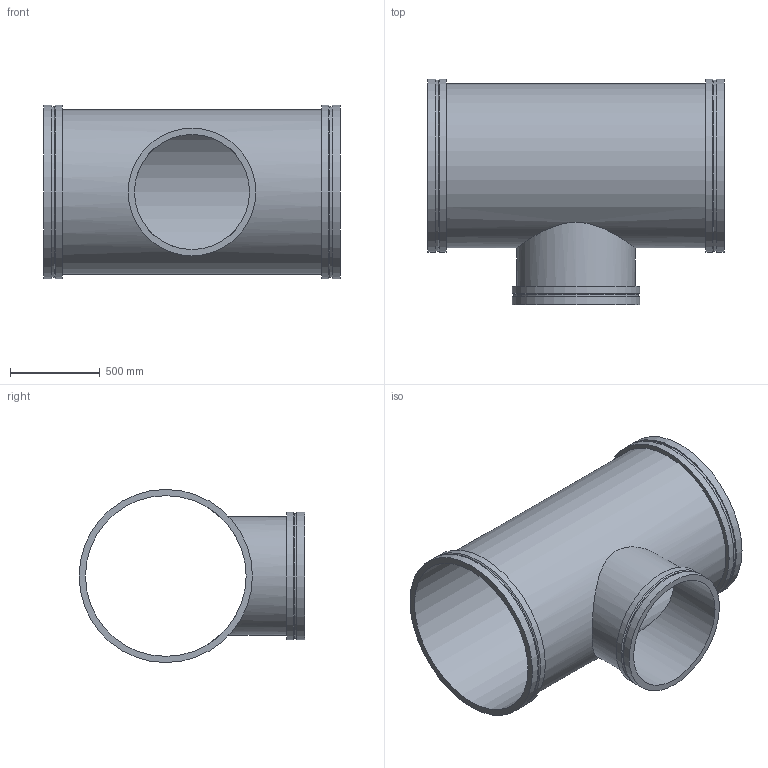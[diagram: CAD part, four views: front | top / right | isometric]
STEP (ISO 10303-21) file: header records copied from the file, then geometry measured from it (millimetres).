
FILE_DESCRIPTION(/* description */ ('VIC REDUCING TEE No W025 VR','CAx-IF Rec.Pracs.---Representation and Presentation of Product Manufacturing Information (PMI)---4.0---2014-10-13'),/* implementation_level */ '2;1');
FILE_NAME(/* name */ 'C:\Users\kkamble\AppData\Roaming\Autodesk\ApplicationPlugins\Back Up\Victaulic_Vic-Ring_Tee Reducing_No W25 VR (AGR)\Victaulic_Vic-Ring_Tee Reducing_No W25 VR (AGR)_36.0x26.0 (900x650).stp',/* time_stamp */ '2020-09-10T11:55:10+05:00',/* author */ ('mchristi'),/* organization */ ('Victaulic'),/* preprocessor_version */ 'ST-DEVELOPER v17.2',/* originating_system */ 'Autodesk Inventor 2019',/* authorisation */ '');
FILE_SCHEMA (('AP242_MANAGED_MODEL_BASED_3D_ENGINEERING_MIM_LF { 1 0 10303 442 1 1 4 }'));
Length unit declared in the file: inch
Products named in the file (1): W25 VR-36.0x26.0
Bounding box: 1651 x 1257.3 x 965.2 mm (x, y, z)
Volume: 68681111.5 mm3; surface area: 10870712.3 mm2
Topology: 1 solids, 1 shells, 25 faces, 68 edges, 52 vertices
Faces by surface type: cylinder 13, plane 9, cone 3
Full cylindrical faces by diameter (mm): 641.35 x1, 660.4 x1, 696.722 x1, 711.2 x2, 895.35 x1, 914.4 x1, 950.722 x2, 965.2 x4
Entity records: 1251 total; most frequent: CARTESIAN_POINT 407, DIRECTION 190, ORIENTED_EDGE 136, AXIS2_PLACEMENT_3D 87, EDGE_CURVE 68, VERTEX_POINT 52, CIRCLE 48, EDGE_LOOP 36
